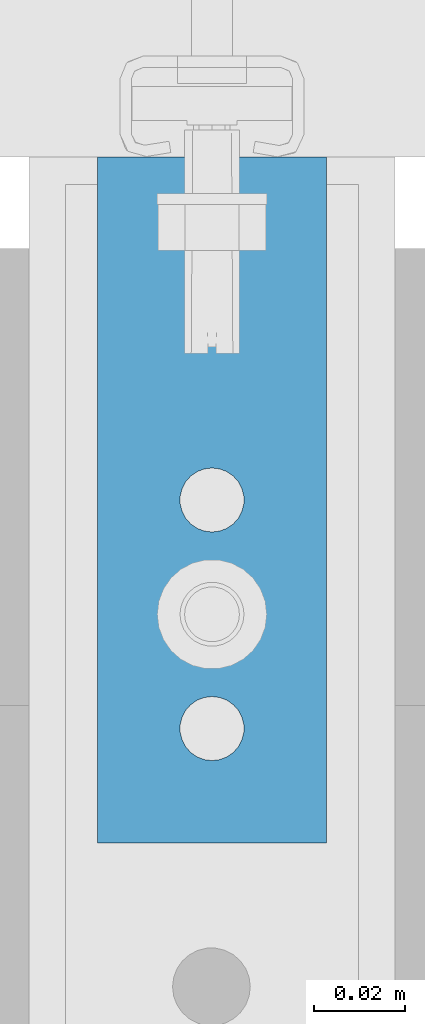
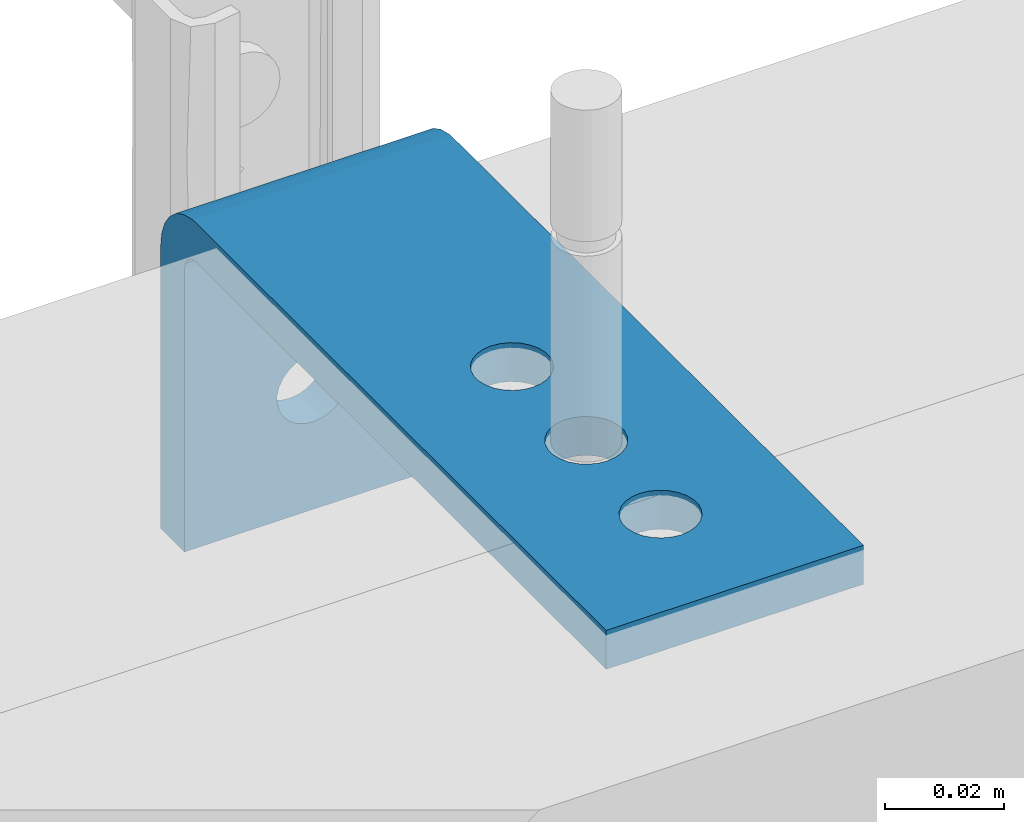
# One storey, part 4 of 7: 1 assembly, 4 openings.
"""IFC2X3 building model written with IfcOpenShell, lengths in metres."""

from ifc_helpers import new_model, entity, si_unit, converted_unit, derived_unit, direction, frame, frame_2d, origin, place, context, subcontext, project, spatial, polyline, circle, outline, extrude, source, transform, mapped, material, type_object, type_shapes, element, save


model = new_model("IFC2X3")

# Units and contexts
model_context = context("Model", 3, precision=1e-05, world=origin(), true_north=direction((6.123031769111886e-17, 1.0)))
body_context = subcontext(model_context, "Body", "Model", "MODEL_VIEW")
ifc_project = project(units=[si_unit("LENGTHUNIT", "METRE"), si_unit("AREAUNIT", "SQUARE_METRE"), converted_unit("PLANEANGLEUNIT", "DEGREE", entity("IfcPlaneAngleMeasure", 0.017453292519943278), si_unit("PLANEANGLEUNIT", "RADIAN"), dimensions=[0, 0, 0, 0, 0, 0, 0]), si_unit("VOLUMEUNIT", "CUBIC_METRE"), derived_unit("THERMALTRANSMITTANCEUNIT", [(si_unit("MASSUNIT", "GRAM", prefix="KILO"), 1), (si_unit("THERMODYNAMICTEMPERATUREUNIT", "KELVIN"), -1), (si_unit("TIMEUNIT", "SECOND"), -3)]), derived_unit("USERDEFINED", [(si_unit("MASSUNIT", "GRAM", prefix="KILO"), 1), (si_unit("THERMODYNAMICTEMPERATUREUNIT", "KELVIN"), -1), (si_unit("TIMEUNIT", "SECOND"), -2)]), derived_unit("THERMALRESISTANCEUNIT", [(si_unit("MASSUNIT", "GRAM", prefix="KILO"), -1), (si_unit("TIMEUNIT", "SECOND"), 3), (si_unit("THERMODYNAMICTEMPERATUREUNIT", "KELVIN"), 1)]), derived_unit("MASSDENSITYUNIT", [(si_unit("MASSUNIT", "GRAM", prefix="KILO"), 1), (si_unit("LENGTHUNIT", "METRE"), -3)]), derived_unit("VAPORPERMEABILITYUNIT", [(si_unit("LENGTHUNIT", "METRE"), -1), (si_unit("TIMEUNIT", "SECOND"), 1)]), derived_unit("USERDEFINED", [(si_unit("MASSUNIT", "GRAM", prefix="KILO"), 1), (si_unit("TIMEUNIT", "SECOND"), -3), (si_unit("LENGTHUNIT", "METRE"), 3), (si_unit("ELECTRICCURRENTUNIT", "AMPERE"), -2)]), si_unit("PRESSUREUNIT", "PASCAL")], contexts=[model_context])

# Site, building, storey
site_placement = place(None, origin())
site = spatial("IfcSite", under=ifc_project, at=site_placement, Name="Default", CompositionType="ELEMENT")
building_placement = place(site_placement, origin())
building = spatial("IfcBuilding", under=site, at=building_placement, CompositionType="ELEMENT")
storey_placement = place(building_placement, origin())
storey = spatial("IfcBuildingStorey", under=building, at=storey_placement, Name="L0", CompositionType="ELEMENT", Elevation=0.0)

# Assembly, openings
ifc_material = material(Name="REC_Acero, S 275JR (Zincado)")
type_product = type_object("IfcTypeProduct", Name="REC-PAA150708T14:PAA150708T14", material=ifc_material)
shared_shape = source(origin(), body_context, "Body", "SweptSolid", [
    extrude(outline(polyline([(-0.002402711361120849, 0.016032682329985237), (0.0555972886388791, 0.016032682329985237), (0.0555972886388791, 0.024032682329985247), (-0.002402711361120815, 0.024032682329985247), (-0.005274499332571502, 0.0236839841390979), (-0.007979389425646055, 0.022658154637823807), (-0.010360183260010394, 0.021014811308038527), (-0.012278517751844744, 0.018849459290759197), (-0.013622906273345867, 0.016287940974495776), (-0.014402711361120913, 0.013124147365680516), (-0.014402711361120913, -0.12596731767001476), (-0.006402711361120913, -0.12596731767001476), (-0.006402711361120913, 0.0120326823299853), (-0.006098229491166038, 0.013563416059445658), (-0.005231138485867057, 0.01486110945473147), (-0.003933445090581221, 0.015728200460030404), (-0.002402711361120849, 0.016032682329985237)])), frame((-0.024999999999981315, -0.014402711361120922, 0.024032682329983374), z_axis=(1.0, 0.0, 0.0), x_axis=(0.0, -1.0, 0.0)), (0.0, 0.0, 1.0), 0.04999999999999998),
])
type_shapes(type_product, [shared_shape])
assembly_placement = place(storey_placement, frame((7.2877202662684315, 15.95453029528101, 2.670000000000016), z_axis=(0.0, -1.0, 0.0), x_axis=(1.0, 0.0, 0.0)))
assembly = element("IfcElementAssembly", 1, at=assembly_placement, inside=storey, type_object=type_product, material=ifc_material, Name="REC-PAA150708T14:PAA150708T14", ObjectType="REC-PAA150708T14:PAA150708T14", AssemblyPlace="NOTDEFINED", PredefinedType="NOTDEFINED", context=body_context, shape_type="MappedRepresentation", body=[
    mapped(shared_shape, transform((0.0, 0.0, 0.0), scale=1.0)),
])
opening_1_placement = place(storey_placement, frame((7.2877202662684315, 15.95453029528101, 2.670000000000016), z_axis=(0.0, 0.0, -1.0), x_axis=(1.0, 0.0, 0.0)))
element("IfcOpeningElement", 2, at=opening_1_placement, cuts=assembly, Name="REC-PAA150708T14:PAA150708T14:1", ObjectType="Opening", context=body_context, shape_type="SweptSolid", body=[
    extrude(circle(Radius=0.007, at=frame_2d((6.283419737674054e-33, 3.537250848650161e-18), x_axis=(1.0, 0.0))), frame((0.0, 0.12499999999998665, 0.008000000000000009), z_axis=(0.0, 0.0, -1.0), x_axis=(0.0, -1.0, 0.0)), (0.0, 0.0, 1.0), 0.008000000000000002),
])
opening_2_placement = place(storey_placement, frame((7.2877202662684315, 15.95453029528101, 2.670000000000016), z_axis=(0.0, 0.0, -1.0), x_axis=(1.0, 0.0, 0.0)))
element("IfcOpeningElement", 3, at=opening_2_placement, cuts=assembly, Name="REC-PAA150708T14:PAA150708T14:2", ObjectType="Opening", context=body_context, shape_type="SweptSolid", body=[
    extrude(circle(Radius=0.007, at=frame_2d((6.283419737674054e-33, 3.537250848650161e-18), x_axis=(1.0, 0.0))), frame((0.0, 0.09999999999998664, 0.00800000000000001), z_axis=(0.0, 0.0, -1.0), x_axis=(0.0, -1.0, 0.0)), (0.0, 0.0, 1.0), 0.008000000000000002),
])
opening_3_placement = place(storey_placement, frame((7.2877202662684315, 15.95453029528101, 2.670000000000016), z_axis=(0.0, 0.0, -1.0), x_axis=(1.0, 0.0, 0.0)))
element("IfcOpeningElement", 4, at=opening_3_placement, cuts=assembly, Name="REC-PAA150708T14:PAA150708T14:3", ObjectType="Opening", context=body_context, shape_type="SweptSolid", body=[
    extrude(circle(Radius=0.007, at=frame_2d((8.4598994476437e-18, 3.537250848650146e-18), x_axis=(1.0, 0.0))), frame((0.0, 0.07499999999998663, 0.00800000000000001), z_axis=(0.0, 0.0, -1.0), x_axis=(0.0, -1.0, 0.0)), (0.0, 0.0, 1.0), 0.008000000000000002),
])
opening_4_placement = place(storey_placement, frame((7.2877202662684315, 15.95453029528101, 2.670000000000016), z_axis=(0.0, 0.0, -1.0), x_axis=(1.0, 0.0, 0.0)))
element("IfcOpeningElement", 5, at=opening_4_placement, cuts=assembly, Name="REC-PAA150708T14:PAA150708T14:4", ObjectType="Opening", context=body_context, shape_type="SweptSolid", body=[
    extrude(circle(Radius=0.007, at=frame_2d((0.0, 4.3092116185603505e-17), x_axis=(1.0, 0.0))), frame((0.0, 0.00799999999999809, 0.04500000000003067), z_axis=(0.0, -1.0, 0.0), x_axis=(0.0, 0.0, -1.0)), (0.0, 0.0, 1.0), 0.008000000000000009),
])

save(model, "model.ifc")
